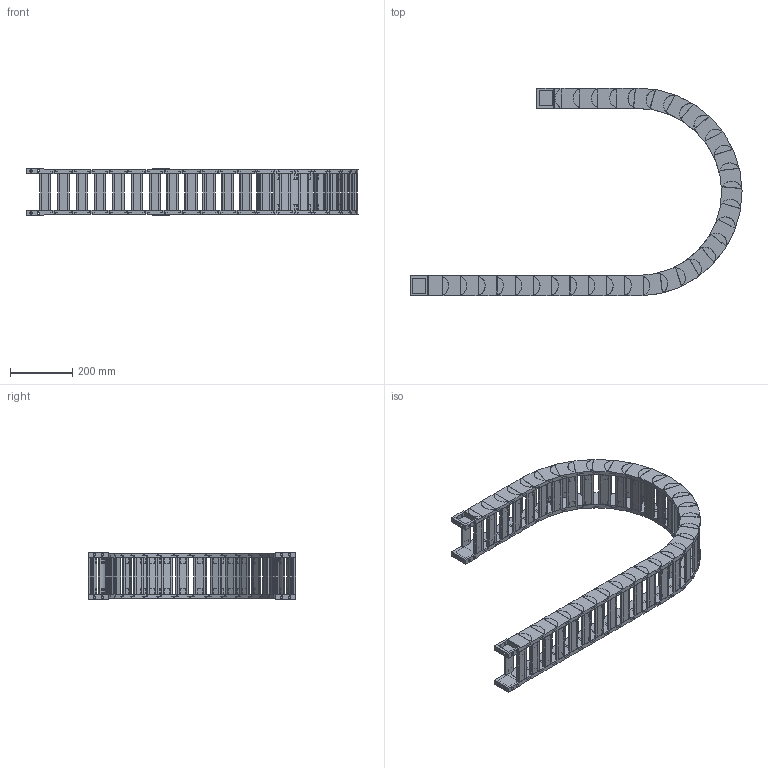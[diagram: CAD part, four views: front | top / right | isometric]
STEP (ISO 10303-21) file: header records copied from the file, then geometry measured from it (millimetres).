
FILE_DESCRIPTION((''),'2;1');
FILE_NAME('HD45-R300-ZPT_ASM','2022-06-20T20:00:40',('admin'),(''),'CREO PARAMETRIC BY PTC INC, 2021164','CREO PARAMETRIC BY PTC INC, 2021164','');
FILE_SCHEMA(('CONFIG_CONTROL_DESIGN','GEOMETRIC_VALIDATION_PROPERTIES_MIM'));
Length unit declared in the file: millimetre
Products named in the file (6): HD45-585; 45-500001; HD45_ASM; H45-T1-G; H45-T2-G; HD45-R300-ZPT_ASM
Assembly tree (37 placements, depth 3):
  HD45-R300-ZPT_ASM
    HD45_ASM  x31
      HD45-585
      45-500001
    H45-T1-G
    H45-T2-G
    45-500001  x2
Bounding box: 1062.69 x 664.97 x 150.4 mm (x, y, z)
Volume: 5921473.3 mm3; surface area: 2003911.8 mm2
Topology: 132 solids, 132 shells, 2550 faces, 6830 edges, 4680 vertices
Faces by surface type: plane 1676, cylinder 874
Entity records: 8762 total; most frequent: CARTESIAN_POINT 1414, DIRECTION 1404, ORIENTED_EDGE 1276, EDGE_CURVE 638, AXIS2_PLACEMENT_3D 491, VERTEX_POINT 432, VECTOR 422, LINE 422
